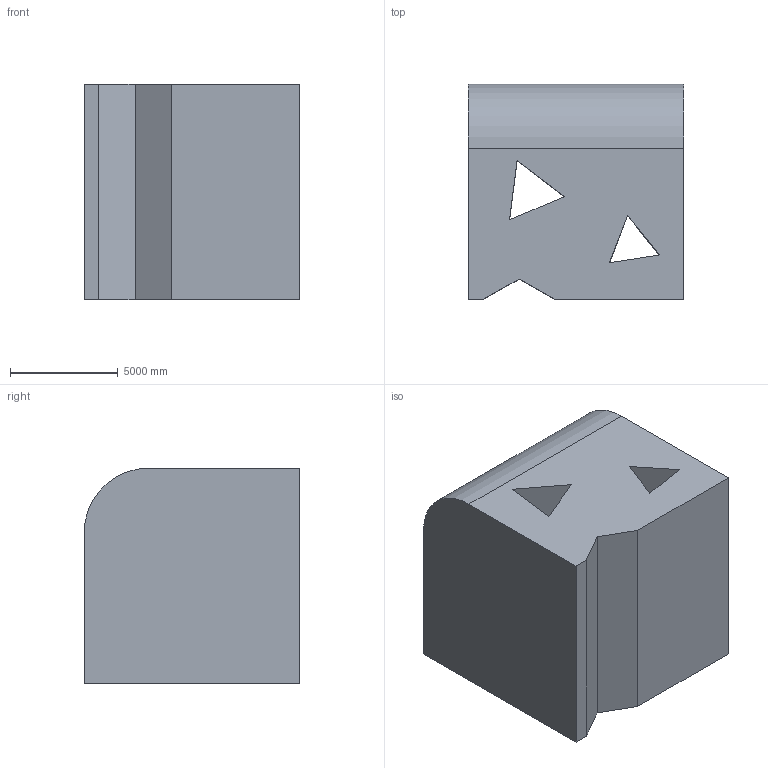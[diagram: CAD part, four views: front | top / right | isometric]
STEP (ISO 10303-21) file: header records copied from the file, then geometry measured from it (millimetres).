
FILE_DESCRIPTION (( 'STEP AP203' ), '1' );
FILE_NAME ('1620.STEP', '2022-08-19T11:06:30', ( 'user' ), ( '' ), 'SwSTEP 2.0', 'SolidWorks 2021', '' );
FILE_SCHEMA (( 'CONFIG_CONTROL_DESIGN' ));
Length unit declared in the file: centimetre
Products named in the file (1): 1620
Bounding box: 10000 x 10000 x 10000 mm (x, y, z)
Volume: 808327374970.8 mm3; surface area: 862537119.4 mm2
Topology: 1 solids, 1 shells, 32 faces, 99 edges, 66 vertices
Faces by surface type: plane 29, cylinder 3
Entity records: 1188 total; most frequent: CARTESIAN_POINT 201, ORIENTED_EDGE 198, DIRECTION 172, EDGE_CURVE 99, VECTOR 90, LINE 90, VERTEX_POINT 66, AXIS2_PLACEMENT_3D 41
